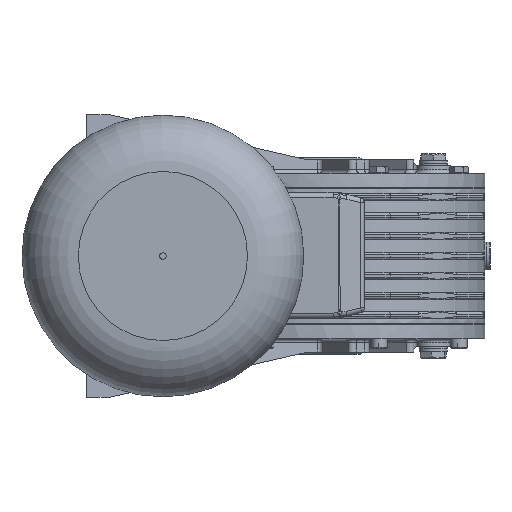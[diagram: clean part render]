
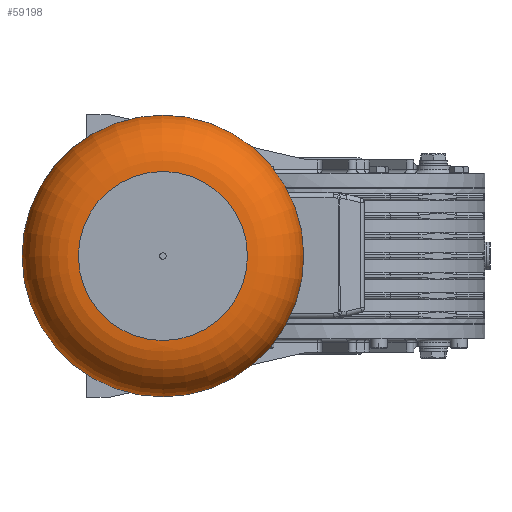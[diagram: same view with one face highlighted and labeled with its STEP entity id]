
A CAD part, left-side view. The second image highlights one B-rep face of the part: STEP entity #59198.
In plain terms, the highlighted toroidal (fillet/blend) face has major radius 66.3 mm and minor radius 44.2 mm.
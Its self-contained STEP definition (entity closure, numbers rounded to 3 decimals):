
#59171=CARTESIAN_POINT('',(458.8,0.0,0.0));
#59172=DIRECTION('',(1.0,0.0,0.0));
#59173=DIRECTION('',(0.0,0.0,-1.0));
#59174=AXIS2_PLACEMENT_3D('',#59171,#59172,#59173);
#59175=TOROIDAL_SURFACE('',#59174,66.3,44.2);
#59176=CARTESIAN_POINT('',(503.0,66.3,0.0));
#59177=VERTEX_POINT('',#59176);
#59178=CARTESIAN_POINT('',(503.0,0.0,0.0));
#59179=DIRECTION('',(1.0,0.0,0.0));
#59180=DIRECTION('',(0.0,1.0,0.0));
#59181=AXIS2_PLACEMENT_3D('',#59178,#59179,#59180);
#59182=CIRCLE('',#59181,66.3);
#59183=EDGE_CURVE('',#59177,#59177,#59182,.T.);
#59184=ORIENTED_EDGE('',*,*,#59183,.F.);
#59185=EDGE_LOOP('',(#59184));
#59186=FACE_OUTER_BOUND('',#59185,.T.);
#59187=CARTESIAN_POINT('',(458.8,110.5,0.0));
#59188=VERTEX_POINT('',#59187);
#59189=CARTESIAN_POINT('',(458.8,0.0,0.0));
#59190=DIRECTION('',(1.0,0.0,0.0));
#59191=DIRECTION('',(0.0,1.0,0.0));
#59192=AXIS2_PLACEMENT_3D('',#59189,#59190,#59191);
#59193=CIRCLE('',#59192,110.5);
#59194=EDGE_CURVE('',#59188,#59188,#59193,.T.);
#59195=ORIENTED_EDGE('',*,*,#59194,.T.);
#59196=EDGE_LOOP('',(#59195));
#59197=FACE_BOUND('',#59196,.T.);
#59198=ADVANCED_FACE('',(#59186,#59197),#59175,.T.);
